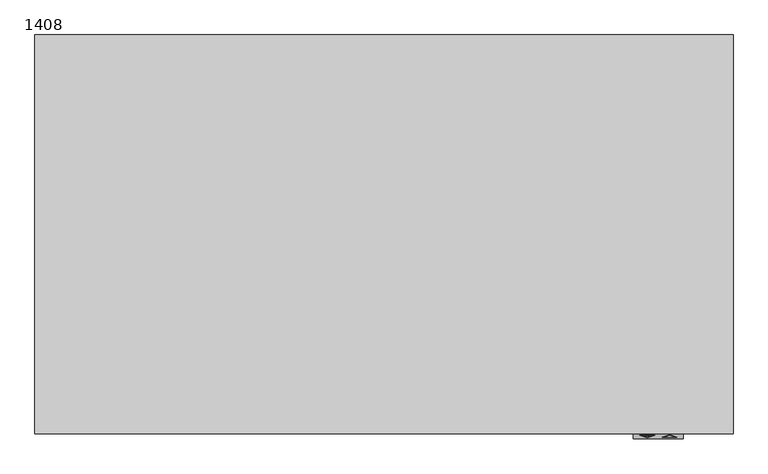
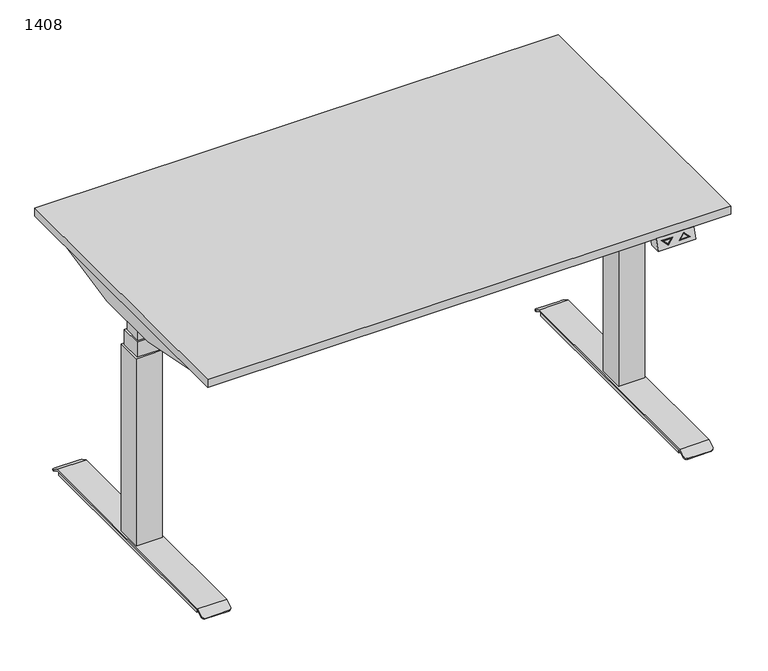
"""IFC4 building model written with IfcOpenShell, lengths in millimetres: furniture geometry, PINTA EQC : 1408."""

import ifcopenshell
import ifcopenshell.guid

model = None  # the IFC model being written
_history = None  # IfcOwnerHistory: only IFC2X3 demands one
_inside = {}  # id of a spatial element -> (the spatial element, [elements in it])
_under = {}  # id of a project, library or spatial element -> (it, [spatial elements below it])
_declared = {}  # id of a project -> (the project, [libraries it declares])
_typed = {}  # id of a type object -> (the type object, [elements of that type])
_made_of = {}  # id of a material, layer set ... -> (it, [elements and type objects made of it])


def new_model(schema):
    """Start an empty IFC model of exactly this schema.

    Asked for "IFC4X3", IfcOpenShell would pick the latest addendum, in which some entities
    have other attributes; the version numbers below select the first issue.
    IFC2X3 requires an IfcOwnerHistory on every rooted entity: one is made here for all.
    """
    global model, _history
    if schema == "IFC4X3":
        model = ifcopenshell.file(schema_version=(4, 3, 0, 0))
    else:
        model = ifcopenshell.file(schema=schema)
    _inside.clear()
    _under.clear()
    _declared.clear()
    _typed.clear()
    _made_of.clear()
    _history = None
    if model.schema == "IFC2X3":
        org = make("IfcOrganization", Name="unknown")
        user = make(
            "IfcPersonAndOrganization",
            ThePerson=make("IfcPerson", FamilyName="unknown"),
            TheOrganization=org,
        )
        app = make(
            "IfcApplication",
            ApplicationDeveloper=org,
            Version="unknown",
            ApplicationFullName="unknown",
            ApplicationIdentifier="unknown",
        )
        _history = make(
            "IfcOwnerHistory",
            OwningUser=user,
            OwningApplication=app,
            ChangeAction="ADDED",
            CreationDate=0,
        )
    return model


def make(cls, **values):
    """One entity of the class cls with the attributes given. An attribute that is None is left unset."""
    return model.create_entity(
        cls, **{name: value for name, value in values.items() if value is not None}
    )


def rooted(cls, **values):
    """An entity with a GlobalId (a new one), such as an element, a storey or a relation."""
    return make(cls, GlobalId=ifcopenshell.guid.new(), OwnerHistory=_history, **values)


def si_unit(unit_type, name, prefix=None):
    """IfcSIUnit, for example si_unit("LENGTHUNIT", "METRE", prefix="MILLI")."""
    return make("IfcSIUnit", UnitType=unit_type, Prefix=prefix, Name=name)


def assignment(units):
    """IfcUnitAssignment: the units of a project."""
    return None if units is None else make("IfcUnitAssignment", Units=units)


def point(xyz):
    """IfcCartesianPoint."""
    return None if xyz is None else make("IfcCartesianPoint", Coordinates=xyz)


def direction(xyz):
    """IfcDirection."""
    return None if xyz is None else make("IfcDirection", DirectionRatios=xyz)


def frame(location, z_axis=None, x_axis=None):
    """IfcAxis2Placement3D, a coordinate frame: its origin and axes. An axis left out is left unset."""
    return make(
        "IfcAxis2Placement3D",
        Location=point(location),
        Axis=direction(z_axis),
        RefDirection=direction(x_axis),
    )


def frame_2d(location, x_axis=None):
    """IfcAxis2Placement2D, a coordinate frame in the plane: its origin and x axis."""
    return make(
        "IfcAxis2Placement2D", Location=point(location), RefDirection=direction(x_axis)
    )


def origin():
    """The frame at (0, 0, 0) with its axes left unset."""
    return frame((0.0, 0.0, 0.0))


def origin_with_axes():
    """The frame at (0, 0, 0) with the z axis (0, 0, 1) and the x axis (1, 0, 0) written out."""
    return frame((0.0, 0.0, 0.0), z_axis=(0.0, 0.0, 1.0), x_axis=(1.0, 0.0, 0.0))


def place(relative_to, where):
    """IfcLocalPlacement: puts the frame where relative to a parent placement (None: the world)."""
    return make(
        "IfcLocalPlacement", PlacementRelTo=relative_to, RelativePlacement=where
    )


def context(
    kind, dimensions, precision=None, world=None, true_north=None, identifier=None
):
    """IfcGeometricRepresentationContext, for example the 3D "Model" context."""
    return make(
        "IfcGeometricRepresentationContext",
        ContextIdentifier=identifier,
        ContextType=kind,
        CoordinateSpaceDimension=dimensions,
        Precision=precision,
        WorldCoordinateSystem=world,
        TrueNorth=true_north,
    )


def project(units=None, contexts=None):
    """IfcProject with its units and contexts."""
    return rooted(
        "IfcProject",
        Name="project",
        RepresentationContexts=contexts,
        UnitsInContext=assignment(units),
    )


def spatial(cls, under=None, at=None, **own):
    """A site, building, storey or space (cls), placed at a placement, below another one or the project."""
    s = rooted(cls, ObjectPlacement=at, **own)
    if under is not None:
        _under.setdefault(under.id(), (under, []))[1].append(s)
    return s


def polyline(points):
    """IfcPolyline through the points."""
    return make("IfcPolyline", Points=[point(p) for p in points])


def circle_curve(where, radius):
    """IfcCircle in the frame where."""
    return make("IfcCircle", Position=where, Radius=radius)


def trimmed(basis, trim1, trim2, sense, master):
    """IfcTrimmedCurve: the piece of a basis curve between two trims."""
    return make(
        "IfcTrimmedCurve",
        BasisCurve=basis,
        Trim1=trim1,
        Trim2=trim2,
        SenseAgreement=sense,
        MasterRepresentation=master,
    )


def segment(curve, same_sense, transition):
    """IfcCompositeCurveSegment."""
    return make(
        "IfcCompositeCurveSegment",
        Transition=transition,
        SameSense=same_sense,
        ParentCurve=curve,
    )


def composite_curve(segments, self_intersect=None):
    """IfcCompositeCurve: segments joined end to end."""
    return make("IfcCompositeCurve", Segments=segments, SelfIntersect=self_intersect)


def outline(outer, holes=None, kind="AREA"):
    """IfcArbitraryClosedProfileDef: a profile drawn as a closed curve; with holes, ...WithVoids."""
    if holes is None:
        return make("IfcArbitraryClosedProfileDef", ProfileType=kind, OuterCurve=outer)
    return make(
        "IfcArbitraryProfileDefWithVoids",
        ProfileType=kind,
        OuterCurve=outer,
        InnerCurves=holes,
    )


def extrude(swept, where, along, depth):
    """IfcExtrudedAreaSolid: the profile swept, set in the frame where, extruded along a direction by depth."""
    return make(
        "IfcExtrudedAreaSolid",
        SweptArea=swept,
        Position=where,
        ExtrudedDirection=direction(along),
        Depth=depth,
    )


def faces_of(points, faces, orient=None, outer=None):
    """IfcFace entities. A face is a list of loops; a loop is a list of indices into points, from 0.

    orient and outer hold one flag for each loop. By default every Orientation is true, the
    first loop of a face is its IfcFaceOuterBound and the others are IfcFaceBound.
    """
    made = []
    for i, loops in enumerate(faces):
        bounds = []
        for j, loop in enumerate(loops):
            is_outer = j == 0 if outer is None else outer[i][j]
            bounds.append(
                make(
                    "IfcFaceOuterBound" if is_outer else "IfcFaceBound",
                    Bound=make("IfcPolyLoop", Polygon=[points[k] for k in loop]),
                    Orientation=True if orient is None else orient[i][j],
                )
            )
        made.append(make("IfcFace", Bounds=bounds))
    return made


def faceted_brep(points, faces, orient=None, outer=None, voids=None):
    """IfcFacetedBrep: a solid bounded by flat faces; with voids (closed shells), ...WithVoids."""
    shared = [point(p) for p in points]
    hull = make("IfcClosedShell", CfsFaces=faces_of(shared, faces, orient, outer))
    if voids is None:
        return make("IfcFacetedBrep", Outer=hull)
    return make(
        "IfcFacetedBrepWithVoids",
        Outer=hull,
        Voids=[
            make(cls, CfsFaces=faces_of(shared, fs, o, b)) for cls, fs, o, b in voids
        ],
    )


def shape(context_of_items, identifier, shape_type, items):
    """IfcShapeRepresentation: the items that make up one representation, for example the "Body"."""
    return make(
        "IfcShapeRepresentation",
        ContextOfItems=context_of_items,
        RepresentationIdentifier=identifier,
        RepresentationType=shape_type,
        Items=items,
    )


def source(mapping_origin, context_of_items, identifier, shape_type, items):
    """IfcRepresentationMap: a shape defined once, which mapped items show again and again."""
    return make(
        "IfcRepresentationMap",
        MappingOrigin=mapping_origin,
        MappedRepresentation=shape(context_of_items, identifier, shape_type, items),
    )


def transform(
    local_origin,
    x_axis=None,
    y_axis=None,
    z_axis=None,
    scale=None,
    scale2=None,
    scale3=None,
    uniform=True,
):
    """IfcCartesianTransformationOperator3D, or its non-uniform kind. x_axis, y_axis, z_axis: its Axis1, 2, 3."""
    if uniform:
        return make(
            "IfcCartesianTransformationOperator3D",
            Axis1=direction(x_axis),
            Axis2=direction(y_axis),
            LocalOrigin=point(local_origin),
            Scale=scale,
            Axis3=direction(z_axis),
        )
    return make(
        "IfcCartesianTransformationOperator3DnonUniform",
        Axis1=direction(x_axis),
        Axis2=direction(y_axis),
        LocalOrigin=point(local_origin),
        Scale=scale,
        Axis3=direction(z_axis),
        Scale2=scale2,
        Scale3=scale3,
    )


def mapped(mapping_source, mapping_target):
    """IfcMappedItem: shows the shape of a source again, moved by a transform."""
    return make(
        "IfcMappedItem", MappingSource=mapping_source, MappingTarget=mapping_target
    )


def made_of(thing, what):
    """Note that an element or type object is made of a material, layer set ...; save() writes the relation."""
    if what is not None:
        _made_of.setdefault(what.id(), (what, []))[1].append(thing)
    return thing


def element(
    cls,
    number,
    at=None,
    inside=None,
    cuts=None,
    type_object=None,
    material=None,
    context=None,
    identifier="Body",
    shape_type=None,
    held_by="IfcProductDefinitionShape",
    body=None,
    shapes=None,
    **own,
):
    """One element of the class cls, such as IfcWall. Its Tag is "e" and its number.

    at: its placement. inside: the storey or other place that contains it. cuts: it is an
    opening in that element (IfcRelVoidsElement). A single representation is given by context,
    identifier, shape_type and body (its items); several are given by shapes. held_by: the class
    of the entity that holds the representations. save() writes the other relations.
    """
    e = rooted(cls, Tag="e%d" % number, ObjectPlacement=at, **own)
    if body is not None:
        shapes = [shape(context, identifier, shape_type, body)]
    if shapes is not None:
        e.Representation = make(held_by, Representations=shapes)
    if inside is not None:
        _inside.setdefault(inside.id(), (inside, []))[1].append(e)
    if cuts is not None:
        rooted(
            "IfcRelVoidsElement", RelatingBuildingElement=cuts, RelatedOpeningElement=e
        )
    if type_object is not None:
        _typed.setdefault(type_object.id(), (type_object, []))[1].append(e)
    return made_of(e, material)


def aggregate(whole, parts):
    """IfcRelAggregates: a whole, such as a stair, and the parts it consists of."""
    return rooted("IfcRelAggregates", RelatingObject=whole, RelatedObjects=parts)


def save(model, path):
    """Write the relations noted so far, then the file.

    IfcRelAggregates (storeys below a building ...), IfcRelContainedInSpatialStructure (elements
    in a storey), IfcRelDefinesByType, IfcRelAssociatesMaterial and IfcRelDeclares: one each for
    every whole, place, type object, material and project.
    """
    for whole, parts in _under.values():
        aggregate(whole, parts)
    for where, things in _inside.values():
        rooted(
            "IfcRelContainedInSpatialStructure",
            RelatedElements=things,
            RelatingStructure=where,
        )
    for kind, things in _typed.values():
        rooted("IfcRelDefinesByType", RelatedObjects=things, RelatingType=kind)
    for what, things in _made_of.values():
        rooted("IfcRelAssociatesMaterial", RelatedObjects=things, RelatingMaterial=what)
    for by, libraries in _declared.values():
        rooted("IfcRelDeclares", RelatingContext=by, RelatedDefinitions=libraries)
    model.write(path)


def plane_surface(at):
    """IfcPlane: the flat surface through the origin of the frame at, square to its z axis."""
    return make("IfcPlane", Position=at)


def cylinder_surface(at, radius):
    """IfcCylindricalSurface: all points at the distance radius from the z axis of the frame at."""
    return make("IfcCylindricalSurface", Position=at, Radius=radius)


def advanced_brep(points, edges, surfaces, faces):
    """IfcAdvancedBrep: a solid bounded by faces that lie on surfaces and meet in shared edges.

    An edge is (start, end): straight between two places in points (the first is 0);
    or (start, end, curve); or (start, end, curve, False) where it runs against its curve.
    A face is (place in surfaces, loops), or (place, loops, False) where it looks against
    its surface's normal. A loop lists edges by number (the first is 1), with a minus sign
    where the edge is run from its end to its start. The first loop is the outer one.
    """
    corners = [point(p) for p in points]
    vertices = [make("IfcVertexPoint", VertexGeometry=c) for c in corners]
    made = []
    for start, end, *more in edges:
        made.append(
            make(
                "IfcEdgeCurve",
                EdgeStart=vertices[start],
                EdgeEnd=vertices[end],
                EdgeGeometry=more[0] if more else make("IfcPolyline", Points=[corners[start], corners[end]]),
                SameSense=more[1] if len(more) > 1 else True,
            )
        )
    hull = []
    for where, loops, *sense in faces:
        bounds = []
        for j, loop in enumerate(loops):
            ring = [make("IfcOrientedEdge", EdgeElement=made[abs(k) - 1], Orientation=k > 0) for k in loop]
            bounds.append(
                make(
                    "IfcFaceOuterBound" if j == 0 else "IfcFaceBound",
                    Bound=make("IfcEdgeLoop", EdgeList=ring),
                    Orientation=True,
                )
            )
        hull.append(make("IfcAdvancedFace", Bounds=bounds, FaceSurface=surfaces[where], SameSense=sense[0] if sense else True))
    return make("IfcAdvancedBrep", Outer=make("IfcClosedShell", CfsFaces=hull))


def furniture_1408_d3f99949(model_context):
    return source(origin(), model_context, "Body", "SolidModel", [
        faceted_brep([(500.0, -810.0, 668.0), (500.0, -780.0, 668.0), (600.0, -780.0, 668.0), (600.0, -810.0, 668.0), (500.0, -800.0, 698.0), (600.0, -800.0, 698.0), (600.0, -770.0, 698.0), (500.0, -770.0, 698.0), (512.5, -802.6491106, 690.0526681), (542.5, -802.6491106, 690.0526681), (527.5, -807.3925271, 675.8224186), (587.5, -806.9174824, 677.2475529), (557.5, -806.9174824, 677.2475529), (572.5, -802.1740659, 691.4778023), (527.5, -806.4980999, 678.5057002), (537.6715729, -803.2815662, 688.1553015), (517.3284271, -803.2815662, 688.1553015), (582.6715729, -806.2850268, 679.1449195), (572.5, -803.0684931, 688.7945208), (562.3284271, -806.2850268, 679.1449195), (542.5, -801.7004273, 689.7364403), (512.5, -801.7004273, 689.7364403), (527.5, -806.4438438, 675.5061908), (537.6715729, -802.3328829, 687.8390737), (527.5, -805.5494166, 678.1894724), (517.3284271, -802.3328829, 687.8390737), (557.5, -805.9687991, 676.9313251), (587.5, -805.9687991, 676.9313251), (572.5, -801.2253826, 691.1615746), (572.5, -802.1198098, 688.478293), (582.6715729, -805.3363436, 678.8286917), (562.3284271, -805.3363436, 678.8286917)], [[[0, 1, 2, 3]], [[4, 5, 6, 7]], [[1, 0, 4, 7]], [[3, 2, 6, 5]], [[0, 3, 5, 4], [8, 9, 10], [11, 12, 13]], [[14, 15, 16]], [[17, 18, 19]], [[2, 1, 7, 6]], [[20, 21, 22], [23, 24, 25]], [[26, 27, 28], [29, 30, 31]], [[21, 20, 9, 8]], [[22, 21, 8, 10]], [[20, 22, 10, 9]], [[27, 26, 12, 11]], [[28, 27, 11, 13]], [[26, 28, 13, 12]], [[24, 23, 15, 14]], [[25, 24, 14, 16]], [[23, 25, 16, 15]], [[30, 29, 18, 17]], [[31, 30, 17, 19]], [[29, 31, 19, 18]]]),
        extrude(outline(polyline([(-680.0, -319.7732113), (680.0, -319.7733158), (680.0, -339.7733158), (-680.0, -339.7732113), (-680.0, -319.7732113)])), frame((0.0, 0.0, 658.0), z_axis=(0.0, 0.0, 1.0), x_axis=(1.0, 0.0, 0.0)), (0.0, 0.0, 1.0), 40.0),
        extrude(outline(polyline([(-680.0, -459.7732114), (680.0, -459.7733158), (680.0, -479.7733158), (-680.0, -479.7732114), (-680.0, -459.7732114)])), frame((0.0, 0.0, 658.0), z_axis=(0.0, 0.0, 1.0), x_axis=(1.0, 0.0, 0.0)), (0.0, 0.0, 1.0), 40.0),
        extrude(outline(polyline([(-700.0, -800.0), (-700.0, 0.0), (700.0, 0.0), (700.0, -800.0), (-700.0, -800.0)])), frame((0.0, 0.0, 698.0), z_axis=(0.0, 0.0, 1.0), x_axis=(1.0, 0.0, 0.0)), (0.0, 0.0, 1.0), 22.0),
        advanced_brep(
        [(606.9772339, -720.0, 6.0), (606.9772339, -720.0, 16.0), (606.9772339, -80.0, 16.0), (606.9772339, -80.0, 6.0), (683.0227661, -80.0, 16.0), (683.0227661, -80.0, 6.0), (683.0227661, -720.0, 16.0), (683.0227661, -720.0, 6.0), (606.0, -75.0, 20.0), (606.0, -56.9800481, 9.908827), (606.0, -58.9344616, 6.4188029), (606.0, -76.0437422, 16.0), (606.0, -723.9562578, 16.0), (606.0, -741.0655384, 6.4188029), (606.0, -743.0199519, 9.908827), (606.0, -725.0, 20.0), (684.0, -76.0437422, 16.0), (684.0, -58.9344616, 6.4188029), (684.0, -56.9800481, 9.908827), (684.0, -75.0, 20.0), (684.0, -725.0, 20.0), (684.0, -743.0199519, 9.908827), (684.0, -741.0655384, 6.4188029), (684.0, -723.9562578, 16.0), (614.0, -750.0, 6.0), (676.0, -750.0, 6.0), (614.0, -748.0455865, 2.5099759), (676.0, -748.0455865, 2.5099759), (614.0, -51.9544135, 2.5099759), (676.0, -51.9544135, 2.5099759), (614.0, -50.0, 6.0), (676.0, -50.0, 6.0)],
        [
            (0, 1),
            (1, 2),
            (2, 3),
            (3, 0),
            (2, 4),
            (4, 5),
            (5, 3),
            (4, 6),
            (6, 7),
            (7, 5),
            (6, 1),
            (0, 7),
            (8, 9),
            (9, 10),
            (10, 11),
            (11, 12),
            (12, 13),
            (13, 14),
            (14, 15),
            (15, 8),
            (16, 17),
            (17, 18),
            (18, 19),
            (19, 20),
            (20, 21),
            (21, 22),
            (22, 23),
            (23, 16),
            (15, 20),
            (19, 8),
            (11, 16),
            (23, 12),
            (14, 24, circle_curve(frame((614.0, -743.0199519, 9.908827), z_axis=(0.0, -0.4886033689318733, 0.8725060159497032), x_axis=(0.0, 0.8725060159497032, 0.4886033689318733)), 8.0)),
            (24, 25),
            (25, 21, circle_curve(frame((676.0, -743.0199519, 9.908827), z_axis=(0.0, -0.4886033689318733, 0.8725060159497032), x_axis=(0.0, 0.8725060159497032, 0.4886033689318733)), 8.0)),
            (24, 26),
            (26, 27),
            (27, 25),
            (22, 27, circle_curve(frame((676.0, -741.0655384, 6.4188029), z_axis=(0.0, 0.4886033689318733, -0.8725060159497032), x_axis=(0.0, 0.8725060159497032, 0.4886033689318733)), 8.0)),
            (26, 13, circle_curve(frame((614.0, -741.0655384, 6.4188029), z_axis=(0.0, 0.4886033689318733, -0.8725060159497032), x_axis=(0.0, 0.8725060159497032, 0.4886033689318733)), 8.0)),
            (10, 28, circle_curve(frame((614.0, -58.9344616, 6.4188029), z_axis=(0.0, -0.4886033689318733, -0.8725060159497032), x_axis=(0.0, -0.8725060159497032, 0.4886033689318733)), 8.0)),
            (28, 29),
            (29, 17, circle_curve(frame((676.0, -58.9344616, 6.4188029), z_axis=(0.0, -0.4886033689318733, -0.8725060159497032), x_axis=(0.0, -0.8725060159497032, 0.4886033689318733)), 8.0)),
            (28, 30),
            (30, 31),
            (31, 29),
            (18, 31, circle_curve(frame((676.0, -56.9800481, 9.908827), z_axis=(0.0, 0.4886033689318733, 0.8725060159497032), x_axis=(0.0, -0.8725060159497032, 0.4886033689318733)), 8.0)),
            (30, 9, circle_curve(frame((614.0, -56.9800481, 9.908827), z_axis=(0.0, 0.4886033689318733, 0.8725060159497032), x_axis=(0.0, -0.8725060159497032, 0.4886033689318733)), 8.0)),
        ],
        [
            plane_surface(frame((606.9772339, -720.0, 16.0), z_axis=(-1.0, 0.0, 0.0), x_axis=(0.0, 0.0, -1.0))),
            plane_surface(frame((606.9772339, -80.0, 16.0), z_axis=(0.0, 1.0, 0.0), x_axis=(0.0, 0.0, -1.0))),
            plane_surface(frame((683.0227661, -80.0, 16.0), z_axis=(1.0, 0.0, 0.0), x_axis=(0.0, 0.0, -1.0))),
            plane_surface(frame((683.0227661, -720.0, 16.0), z_axis=(0.0, -1.0, 0.0), x_axis=(0.0, 0.0, -1.0))),
            plane_surface(frame((606.9772339, -723.4188232, 6.0), z_axis=(0.0, 0.0, -1.0), x_axis=(0.0, -1.0, 0.0))),
            plane_surface(frame((606.0, -400.0, 20.0), z_axis=(-1.0, 0.0, 0.0), x_axis=(0.0, -1.0, 0.0))),
            plane_surface(frame((684.0, -400.0, 20.0), z_axis=(1.0, 0.0, 0.0), x_axis=(0.0, 1.0, 0.0))),
            plane_surface(frame((606.0, -75.0, 20.0), z_axis=(0.0, 0.0, 1.0), x_axis=(1.0, 0.0, 0.0))),
            plane_surface(frame((606.0, -723.9562578, 16.0), z_axis=(0.0, 0.0, -1.0), x_axis=(1.0, 0.0, 0.0))),
            plane_surface(frame((606.0, -725.0, 20.0), z_axis=(0.0, -0.4886033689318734, 0.8725060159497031), x_axis=(1.0, 0.0, 0.0))),
            plane_surface(frame((606.0, -750.0, 6.0), z_axis=(0.0, -0.872506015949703, -0.4886033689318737), x_axis=(1.0, 0.0, 0.0))),
            plane_surface(frame((606.0, -748.0455865, 2.5099759), z_axis=(0.0, 0.4886033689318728, -0.8725060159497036), x_axis=(1.0, 0.0, 0.0))),
            plane_surface(frame((606.0, -76.0437422, 16.0), z_axis=(0.0, -0.4886033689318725, -0.8725060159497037), x_axis=(1.0, 0.0, 0.0))),
            plane_surface(frame((606.0, -51.9544135, 2.5099759), z_axis=(0.0, 0.8725060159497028, -0.48860336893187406), x_axis=(1.0, 0.0, 0.0))),
            plane_surface(frame((606.0, -50.0, 6.0), z_axis=(0.0, 0.48860336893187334, 0.8725060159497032), x_axis=(1.0, 0.0, 0.0))),
            cylinder_surface(frame((614.0, -743.0199519, 9.908827), z_axis=(0.0, -0.4886033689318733, 0.8725060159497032), x_axis=(0.0, 0.8725060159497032, 0.4886033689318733)), 8.0),
            cylinder_surface(frame((676.0, -743.0199519, 9.908827), z_axis=(0.0, -0.4886033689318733, 0.8725060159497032), x_axis=(0.0, 0.8725060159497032, 0.4886033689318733)), 8.0),
            cylinder_surface(frame((614.0, -56.9800481, 9.908827), z_axis=(0.0, 0.4886033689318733, 0.8725060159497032), x_axis=(0.0, -0.8725060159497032, 0.4886033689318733)), 8.0),
            cylinder_surface(frame((676.0, -56.9800481, 9.908827), z_axis=(0.0, 0.4886033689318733, 0.8725060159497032), x_axis=(0.0, -0.8725060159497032, 0.4886033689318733)), 8.0),
        ],
        [
            (0, [[1, 2, 3, 4]]),
            (1, [[-3, 5, 6, 7]]),
            (2, [[-6, 8, 9, 10]]),
            (3, [[-9, 11, -1, 12]]),
            (4, [[-4, -7, -10, -12]]),
            (5, [[13, 14, 15, 16, 17, 18, 19, 20]]),
            (6, [[21, 22, 23, 24, 25, 26, 27, 28]]),
            (7, [[29, -24, 30, -20]]),
            (8, [[31, -28, 32, -16], [-11, -8, -5, -2]]),
            (9, [[-19, 33, 34, 35, -25, -29]]),
            (10, [[36, 37, 38, -34]]),
            (11, [[-27, 39, -37, 40, -17, -32]]),
            (12, [[-15, 41, 42, 43, -21, -31]]),
            (13, [[44, 45, 46, -42]]),
            (14, [[-23, 47, -45, 48, -13, -30]]),
            (15, [[-40, -36, -33, -18]]),
            (16, [[-35, -38, -39, -26]]),
            (17, [[-48, -44, -41, -14]]),
            (18, [[-43, -46, -47, -22]]),
        ],
    ),
        faceted_brep([(479.4551307, -460.0, 698.0), (662.9996948, -460.0, 698.0), (662.9996948, -700.0, 698.0), (679.4551307, -700.0, 698.0), (683.0, -700.0, 698.0), (683.0, -100.0, 698.0), (679.4551307, -100.0, 698.0), (662.9996948, -100.0, 698.0), (662.9996948, -340.0, 698.0), (479.4551307, -340.0, 698.0), (479.4551307, -460.0, 635.2327881), (479.4551307, -340.0, 635.2327881), (679.4551307, -340.0, 635.2327881), (679.4551307, -303.8252348, 635.2327881), (683.0, -303.8252348, 635.2327881), (683.0, -496.1747652, 635.2327881), (679.4551307, -496.1747652, 635.2327881), (679.4551307, -460.0, 635.2327881), (662.9996948, -340.0, 694.9093018), (679.4551307, -340.0, 694.9093018), (679.4551307, -460.0, 694.9093018), (662.9996948, -460.0, 694.9093018), (679.4551307, -700.0, 694.9093018), (662.9996948, -700.0, 694.9093018), (679.4551307, -100.0, 694.9093018), (662.9996948, -100.0, 694.9093018), (679.4551307, -101.1249222, 694.9093018), (679.4551307, -698.8750778, 694.9093018), (679.4551307, -108.5505036, 674.5076845), (679.4551307, -691.4494964, 674.5076845), (683.0, -108.5505036, 674.5076845), (683.0, -691.4494964, 674.5076845)], [[[0, 1, 2, 3, 4, 5, 6, 7, 8, 9]], [[10, 11, 12, 13, 14, 15, 16, 17]], [[9, 11, 10, 0]], [[11, 9, 8, 18, 19, 12]], [[17, 20, 21, 1, 0, 10]], [[22, 3, 2, 23]], [[24, 25, 7, 6]], [[24, 26, 19, 18, 25]], [[23, 21, 20, 27, 22]], [[2, 1, 21, 23]], [[25, 18, 8, 7]], [[13, 12, 19, 26, 28]], [[29, 27, 20, 17, 16]], [[15, 14, 30, 5, 4, 31]], [[16, 15, 31, 29]], [[22, 27, 3]], [[6, 26, 24]], [[4, 3, 27, 29, 31]], [[28, 30, 14, 13]], [[30, 28, 26, 6, 5]]]),
        extrude(outline(composite_curve([segment(trimmed(circle_curve(frame_2d((645.0, -705.0)), 25.0), [point((670.0, -705.0))], [point((620.0, -705.0))], False, "CARTESIAN"), True, "CONTINUOUS"), segment(trimmed(circle_curve(frame_2d((645.0, -705.0)), 25.0), [point((620.0, -705.0))], [point((670.0, -705.0))], False, "CARTESIAN"), True, "CONTINUOUS")], self_intersect=False)), origin_with_axes(), (0.0, 0.0, 1.0), 6.0),
        extrude(outline(composite_curve([segment(trimmed(circle_curve(frame_2d((645.0, -95.0)), 25.0), [point((670.0, -95.0))], [point((620.0, -95.0))], False, "CARTESIAN"), True, "CONTINUOUS"), segment(trimmed(circle_curve(frame_2d((645.0, -95.0)), 25.0), [point((620.0, -95.0))], [point((670.0, -95.0))], False, "CARTESIAN"), True, "CONTINUOUS")], self_intersect=False)), origin_with_axes(), (0.0, 0.0, 1.0), 6.0),
        faceted_brep([(610.0, -365.0, 550.0), (610.0, -434.9621325, 550.0), (680.0, -434.9621325, 550.0), (680.0, -365.0, 550.0), (675.0, -370.0, 550.0), (675.0, -429.9621325, 550.0), (615.0, -429.9621325, 550.0), (615.0, -370.0, 550.0), (610.0, -365.0, 20.0), (680.0, -365.0, 20.0), (680.0, -434.9621325, 20.0), (610.0, -434.9621325, 20.0), (615.0, -370.0, 592.616394), (615.0, -429.9621325, 592.616394), (675.0, -429.9621325, 592.616394), (675.0, -370.0, 592.616394), (670.0, -375.0, 592.616394), (670.0, -424.9621325, 592.616394), (620.0, -424.9621325, 592.616394), (620.0, -375.0, 592.616394), (620.0, -375.0, 635.2327881), (620.0, -424.9621325, 635.2327881), (670.0, -424.9621325, 635.2327881), (670.0, -375.0, 635.2327881)], [[[0, 1, 2, 3], [4, 5, 6, 7]], [[8, 9, 10, 11]], [[3, 9, 8, 0]], [[2, 10, 9, 3]], [[1, 11, 10, 2]], [[0, 8, 11, 1]], [[12, 13, 14, 15], [16, 17, 18, 19]], [[15, 4, 7, 12]], [[14, 5, 4, 15]], [[13, 6, 5, 14]], [[12, 7, 6, 13]], [[20, 21, 22, 23]], [[23, 16, 19, 20]], [[22, 17, 16, 23]], [[21, 18, 17, 22]], [[20, 19, 18, 21]]]),
        advanced_brep(
        [(-606.9772339, -720.0, 6.0), (-606.9772339, -80.0, 6.0), (-606.9772339, -80.0, 16.0), (-606.9772339, -720.0, 16.0), (-683.0227661, -80.0, 6.0), (-683.0227661, -80.0, 16.0), (-683.0227661, -720.0, 6.0), (-683.0227661, -720.0, 16.0), (-606.0, -75.0, 20.0), (-606.0, -725.0, 20.0), (-606.0, -743.0199519, 9.908827), (-606.0, -741.0655384, 6.4188029), (-606.0, -723.9562578, 16.0), (-606.0, -76.0437422, 16.0), (-606.0, -58.9344616, 6.4188029), (-606.0, -56.9800481, 9.908827), (-684.0, -76.0437422, 16.0), (-684.0, -723.9562578, 16.0), (-684.0, -741.0655384, 6.4188029), (-684.0, -743.0199519, 9.908827), (-684.0, -725.0, 20.0), (-684.0, -75.0, 20.0), (-684.0, -56.9800481, 9.908827), (-684.0, -58.9344616, 6.4188029), (-676.0, -750.0, 6.0), (-614.0, -750.0, 6.0), (-676.0, -748.0455865, 2.5099759), (-614.0, -748.0455865, 2.5099759), (-676.0, -51.9544135, 2.5099759), (-614.0, -51.9544135, 2.5099759), (-676.0, -50.0, 6.0), (-614.0, -50.0, 6.0)],
        [
            (0, 1),
            (1, 2),
            (2, 3),
            (3, 0),
            (1, 4),
            (4, 5),
            (5, 2),
            (4, 6),
            (6, 7),
            (7, 5),
            (6, 0),
            (3, 7),
            (8, 9),
            (9, 10),
            (10, 11),
            (11, 12),
            (12, 13),
            (13, 14),
            (14, 15),
            (15, 8),
            (16, 17),
            (17, 18),
            (18, 19),
            (19, 20),
            (20, 21),
            (21, 22),
            (22, 23),
            (23, 16),
            (8, 21),
            (20, 9),
            (12, 17),
            (16, 13),
            (19, 24, circle_curve(frame((-676.0, -743.0199519, 9.908827), z_axis=(0.0, -0.4886033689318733, 0.8725060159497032), x_axis=(0.0, 0.8725060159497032, 0.4886033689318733)), 8.0)),
            (24, 25),
            (25, 10, circle_curve(frame((-614.0, -743.0199519, 9.908827), z_axis=(0.0, -0.4886033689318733, 0.8725060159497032), x_axis=(0.0, 0.8725060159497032, 0.4886033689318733)), 8.0)),
            (24, 26),
            (26, 27),
            (27, 25),
            (11, 27, circle_curve(frame((-614.0, -741.0655384, 6.4188029), z_axis=(0.0, 0.4886033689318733, -0.8725060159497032), x_axis=(0.0, 0.8725060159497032, 0.4886033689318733)), 8.0)),
            (26, 18, circle_curve(frame((-676.0, -741.0655384, 6.4188029), z_axis=(0.0, 0.4886033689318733, -0.8725060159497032), x_axis=(0.0, 0.8725060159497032, 0.4886033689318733)), 8.0)),
            (23, 28, circle_curve(frame((-676.0, -58.9344616, 6.4188029), z_axis=(0.0, -0.4886033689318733, -0.8725060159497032), x_axis=(0.0, -0.8725060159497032, 0.4886033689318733)), 8.0)),
            (28, 29),
            (29, 14, circle_curve(frame((-614.0, -58.9344616, 6.4188029), z_axis=(0.0, -0.4886033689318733, -0.8725060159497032), x_axis=(0.0, -0.8725060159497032, 0.4886033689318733)), 8.0)),
            (28, 30),
            (30, 31),
            (31, 29),
            (15, 31, circle_curve(frame((-614.0, -56.9800481, 9.908827), z_axis=(0.0, 0.4886033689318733, 0.8725060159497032), x_axis=(0.0, -0.8725060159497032, 0.4886033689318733)), 8.0)),
            (30, 22, circle_curve(frame((-676.0, -56.9800481, 9.908827), z_axis=(0.0, 0.4886033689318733, 0.8725060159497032), x_axis=(0.0, -0.8725060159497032, 0.4886033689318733)), 8.0)),
        ],
        [
            plane_surface(frame((-606.9772339, -720.0, 16.0), z_axis=(1.0, 0.0, 0.0), x_axis=(0.0, 0.0, -1.0))),
            plane_surface(frame((-606.9772339, -80.0, 16.0), z_axis=(0.0, 1.0, 0.0), x_axis=(0.0, 0.0, -1.0))),
            plane_surface(frame((-683.0227661, -80.0, 16.0), z_axis=(-1.0, 0.0, 0.0), x_axis=(0.0, 0.0, -1.0))),
            plane_surface(frame((-683.0227661, -720.0, 16.0), z_axis=(0.0, -1.0, 0.0), x_axis=(0.0, 0.0, -1.0))),
            plane_surface(frame((-606.9772339, -723.4188232, 6.0), z_axis=(0.0, 0.0, -1.0), x_axis=(0.0, -1.0, 0.0))),
            plane_surface(frame((-606.0, -400.0, 20.0), z_axis=(1.0, 0.0, 0.0), x_axis=(0.0, -1.0, 0.0))),
            plane_surface(frame((-684.0, -400.0, 20.0), z_axis=(-1.0, 0.0, 0.0), x_axis=(0.0, 1.0, 0.0))),
            plane_surface(frame((-606.0, -75.0, 20.0), z_axis=(0.0, 0.0, 1.0), x_axis=(-1.0, 0.0, 0.0))),
            plane_surface(frame((-606.0, -723.9562578, 16.0), z_axis=(0.0, 0.0, -1.0), x_axis=(-1.0, 0.0, 0.0))),
            plane_surface(frame((-606.0, -725.0, 20.0), z_axis=(0.0, -0.4886033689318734, 0.8725060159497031), x_axis=(-1.0, 0.0, 0.0))),
            plane_surface(frame((-606.0, -750.0, 6.0), z_axis=(0.0, -0.872506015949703, -0.4886033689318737), x_axis=(-1.0, 0.0, 0.0))),
            plane_surface(frame((-606.0, -748.0455865, 2.5099759), z_axis=(0.0, 0.4886033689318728, -0.8725060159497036), x_axis=(-1.0, 0.0, 0.0))),
            plane_surface(frame((-606.0, -76.0437422, 16.0), z_axis=(0.0, -0.4886033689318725, -0.8725060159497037), x_axis=(-1.0, 0.0, 0.0))),
            plane_surface(frame((-606.0, -51.9544135, 2.5099759), z_axis=(0.0, 0.8725060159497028, -0.48860336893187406), x_axis=(-1.0, 0.0, 0.0))),
            plane_surface(frame((-606.0, -50.0, 6.0), z_axis=(0.0, 0.48860336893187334, 0.8725060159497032), x_axis=(-1.0, 0.0, 0.0))),
            cylinder_surface(frame((-614.0, -743.0199519, 9.908827), z_axis=(0.0, -0.4886033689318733, 0.8725060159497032), x_axis=(0.0, 0.8725060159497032, 0.4886033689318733)), 8.0),
            cylinder_surface(frame((-676.0, -743.0199519, 9.908827), z_axis=(0.0, -0.4886033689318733, 0.8725060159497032), x_axis=(0.0, 0.8725060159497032, 0.4886033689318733)), 8.0),
            cylinder_surface(frame((-614.0, -56.9800481, 9.908827), z_axis=(0.0, 0.4886033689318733, 0.8725060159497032), x_axis=(0.0, -0.8725060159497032, 0.4886033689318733)), 8.0),
            cylinder_surface(frame((-676.0, -56.9800481, 9.908827), z_axis=(0.0, 0.4886033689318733, 0.8725060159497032), x_axis=(0.0, -0.8725060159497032, 0.4886033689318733)), 8.0),
        ],
        [
            (0, [[1, 2, 3, 4]]),
            (1, [[5, 6, 7, -2]]),
            (2, [[8, 9, 10, -6]]),
            (3, [[11, -4, 12, -9]]),
            (4, [[-11, -8, -5, -1]]),
            (5, [[13, 14, 15, 16, 17, 18, 19, 20]]),
            (6, [[21, 22, 23, 24, 25, 26, 27, 28]]),
            (7, [[-13, 29, -25, 30]]),
            (8, [[-17, 31, -21, 32], [-3, -7, -10, -12]]),
            (9, [[-30, -24, 33, 34, 35, -14]]),
            (10, [[-34, 36, 37, 38]]),
            (11, [[-31, -16, 39, -37, 40, -22]]),
            (12, [[-32, -28, 41, 42, 43, -18]]),
            (13, [[-42, 44, 45, 46]]),
            (14, [[-29, -20, 47, -45, 48, -26]]),
            (15, [[-15, -35, -38, -39]]),
            (16, [[-23, -40, -36, -33]]),
            (17, [[-19, -43, -46, -47]]),
            (18, [[-27, -48, -44, -41]]),
        ],
    ),
        faceted_brep([(-479.4551307, -460.0, 698.0), (-479.4551307, -340.0, 698.0), (-662.9996948, -340.0, 698.0), (-662.9996948, -100.0, 698.0), (-679.4551307, -100.0, 698.0), (-683.0, -100.0, 698.0), (-683.0, -700.0, 698.0), (-679.4551307, -700.0, 698.0), (-662.9996948, -700.0, 698.0), (-662.9996948, -460.0, 698.0), (-479.4551307, -460.0, 635.2327881), (-679.4551307, -460.0, 635.2327881), (-679.4551307, -496.1747652, 635.2327881), (-683.0, -496.1747652, 635.2327881), (-683.0, -303.8252348, 635.2327881), (-679.4551307, -303.8252348, 635.2327881), (-679.4551307, -340.0, 635.2327881), (-479.4551307, -340.0, 635.2327881), (-679.4551307, -340.0, 694.9093018), (-662.9996948, -340.0, 694.9093018), (-662.9996948, -460.0, 694.9093018), (-679.4551307, -460.0, 694.9093018), (-679.4551307, -700.0, 694.9093018), (-662.9996948, -700.0, 694.9093018), (-679.4551307, -100.0, 694.9093018), (-662.9996948, -100.0, 694.9093018), (-679.4551307, -698.8750778, 694.9093018), (-679.4551307, -101.1249222, 694.9093018), (-679.4551307, -691.4494964, 674.5076845), (-679.4551307, -108.5505036, 674.5076845), (-683.0, -691.4494964, 674.5076845), (-683.0, -108.5505036, 674.5076845)], [[[0, 1, 2, 3, 4, 5, 6, 7, 8, 9]], [[10, 11, 12, 13, 14, 15, 16, 17]], [[1, 0, 10, 17]], [[17, 16, 18, 19, 2, 1]], [[11, 10, 0, 9, 20, 21]], [[22, 23, 8, 7]], [[24, 4, 3, 25]], [[23, 22, 26, 21, 20]], [[24, 25, 19, 18, 27]], [[8, 23, 20, 9]], [[25, 3, 2, 19]], [[28, 12, 11, 21, 26]], [[15, 29, 27, 18, 16]], [[13, 30, 6, 5, 31, 14]], [[12, 28, 30, 13]], [[22, 7, 26]], [[4, 24, 27]], [[6, 30, 28, 26, 7]], [[29, 15, 14, 31]], [[31, 5, 4, 27, 29]]]),
        extrude(outline(composite_curve([segment(trimmed(circle_curve(frame_2d((-645.0, -705.0)), 25.0), [point((-670.0, -705.0))], [point((-620.0, -705.0))], False, "CARTESIAN"), True, "CONTINUOUS"), segment(trimmed(circle_curve(frame_2d((-645.0, -705.0)), 25.0), [point((-620.0, -705.0))], [point((-670.0, -705.0))], False, "CARTESIAN"), True, "CONTINUOUS")], self_intersect=False)), origin_with_axes(), (0.0, 0.0, 1.0), 6.0),
        extrude(outline(composite_curve([segment(trimmed(circle_curve(frame_2d((-645.0, -95.0)), 25.0), [point((-670.0, -95.0))], [point((-620.0, -95.0))], False, "CARTESIAN"), True, "CONTINUOUS"), segment(trimmed(circle_curve(frame_2d((-645.0, -95.0)), 25.0), [point((-620.0, -95.0))], [point((-670.0, -95.0))], False, "CARTESIAN"), True, "CONTINUOUS")], self_intersect=False)), origin_with_axes(), (0.0, 0.0, 1.0), 6.0),
        faceted_brep([(-610.0, -365.0, 550.0), (-680.0, -365.0, 550.0), (-680.0, -434.9621325, 550.0), (-610.0, -434.9621325, 550.0), (-675.0, -370.0, 550.0), (-615.0, -370.0, 550.0), (-615.0, -429.9621325, 550.0), (-675.0, -429.9621325, 550.0), (-610.0, -365.0, 20.0), (-610.0, -434.9621325, 20.0), (-680.0, -434.9621325, 20.0), (-680.0, -365.0, 20.0), (-615.0, -370.0, 592.616394), (-675.0, -370.0, 592.616394), (-675.0, -429.9621325, 592.616394), (-615.0, -429.9621325, 592.616394), (-670.0, -375.0, 592.616394), (-620.0, -375.0, 592.616394), (-620.0, -424.9621325, 592.616394), (-670.0, -424.9621325, 592.616394), (-620.0, -375.0, 635.2327881), (-670.0, -375.0, 635.2327881), (-670.0, -424.9621325, 635.2327881), (-620.0, -424.9621325, 635.2327881)], [[[0, 1, 2, 3], [4, 5, 6, 7]], [[8, 9, 10, 11]], [[1, 0, 8, 11]], [[2, 1, 11, 10]], [[3, 2, 10, 9]], [[0, 3, 9, 8]], [[12, 13, 14, 15], [16, 17, 18, 19]], [[13, 12, 5, 4]], [[14, 13, 4, 7]], [[15, 14, 7, 6]], [[12, 15, 6, 5]], [[20, 21, 22, 23]], [[21, 20, 17, 16]], [[22, 21, 16, 19]], [[23, 22, 19, 18]], [[20, 23, 18, 17]]]),
    ])


if __name__ == "__main__":
    model = new_model("IFC4")
    model_context = context("Model", 3, world=origin())
    ifc_project = project(units=[si_unit("LENGTHUNIT", "METRE", prefix="MILLI")], contexts=[model_context])
    site = spatial("IfcSite", under=ifc_project)
    building = spatial("IfcBuilding", under=site)
    placement = place(None, origin())
    furniture_1408_shape = furniture_1408_d3f99949(model_context)
    element("IfcFurniture", 1, ObjectType="PINTA EQC : 1408", at=placement, inside=building, context=model_context, shape_type="MappedRepresentation", body=[
        mapped(furniture_1408_shape, transform((0.0, 0.0, 0.0), x_axis=(1.0, 0.0, 0.0), y_axis=(0.0, 1.0, 0.0), z_axis=(0.0, 0.0, 1.0))),
    ])
    save(model, "model.ifc")
